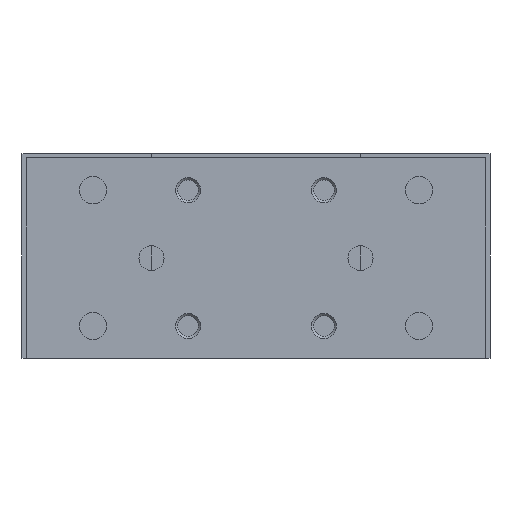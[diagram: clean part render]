
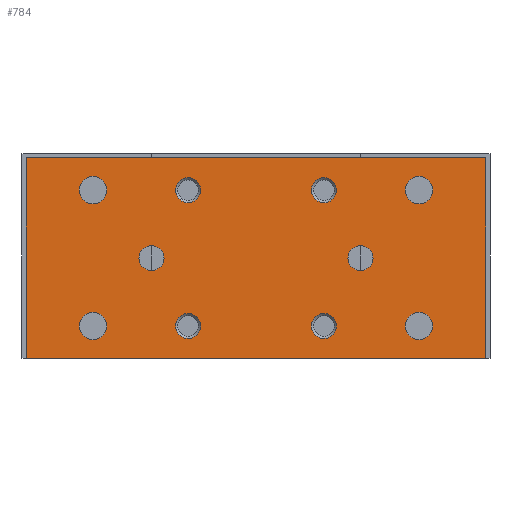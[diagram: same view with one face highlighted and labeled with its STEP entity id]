
A CAD part, left-side view. The second image highlights one B-rep face of the part: STEP entity #784.
In plain terms, the highlighted planar face has unit normal (-1, 0, 0).
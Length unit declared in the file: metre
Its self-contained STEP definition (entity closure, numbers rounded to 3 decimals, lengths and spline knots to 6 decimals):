
#784 = ADVANCED_FACE( '', ( #1798, #1799, #1800, #1801, #1802, #1803, #1804, #1805, #1806, #1807, #1808 ), #1809, .F. );
#1798 = FACE_BOUND( '', #2866, .T. );
#1799 = FACE_BOUND( '', #2867, .T. );
#1800 = FACE_BOUND( '', #2868, .T. );
#1801 = FACE_BOUND( '', #2869, .T. );
#1802 = FACE_BOUND( '', #2870, .T. );
#1803 = FACE_BOUND( '', #2871, .T. );
#1804 = FACE_BOUND( '', #2872, .T. );
#1805 = FACE_BOUND( '', #2873, .T. );
#1806 = FACE_BOUND( '', #2874, .T. );
#1807 = FACE_BOUND( '', #2875, .T. );
#1808 = FACE_OUTER_BOUND( '', #2876, .T. );
#1809 = PLANE( '', #2877 );
#2866 = EDGE_LOOP( '', ( #4649 ) );
#2867 = EDGE_LOOP( '', ( #4650 ) );
#2868 = EDGE_LOOP( '', ( #4651 ) );
#2869 = EDGE_LOOP( '', ( #4652 ) );
#2870 = EDGE_LOOP( '', ( #4653 ) );
#2871 = EDGE_LOOP( '', ( #4654 ) );
#2872 = EDGE_LOOP( '', ( #4655 ) );
#2873 = EDGE_LOOP( '', ( #4656 ) );
#2874 = EDGE_LOOP( '', ( #4657 ) );
#2875 = EDGE_LOOP( '', ( #4658 ) );
#2876 = EDGE_LOOP( '', ( #4659, #4660, #4661, #4662 ) );
#2877 = AXIS2_PLACEMENT_3D( '', #4663, #4664, #4665 );
#4649 = ORIENTED_EDGE( '', *, *, #4991, .T. );
#4650 = ORIENTED_EDGE( '', *, *, #5464, .T. );
#4651 = ORIENTED_EDGE( '', *, *, #5454, .T. );
#4652 = ORIENTED_EDGE( '', *, *, #5195, .T. );
#4653 = ORIENTED_EDGE( '', *, *, #5349, .F. );
#4654 = ORIENTED_EDGE( '', *, *, #5180, .T. );
#4655 = ORIENTED_EDGE( '', *, *, #5366, .T. );
#4656 = ORIENTED_EDGE( '', *, *, #5331, .F. );
#4657 = ORIENTED_EDGE( '', *, *, #5254, .F. );
#4658 = ORIENTED_EDGE( '', *, *, #5115, .T. );
#4659 = ORIENTED_EDGE( '', *, *, #5283, .T. );
#4660 = ORIENTED_EDGE( '', *, *, #5108, .T. );
#4661 = ORIENTED_EDGE( '', *, *, #5160, .T. );
#4662 = ORIENTED_EDGE( '', *, *, #4988, .T. );
#4663 = CARTESIAN_POINT( '', ( -0.07925, -0.055, -0.049 ) );
#4664 = DIRECTION( '', ( 1., 0., 0. ) );
#4665 = DIRECTION( '', ( 0., 1., 0. ) );
#4988 = EDGE_CURVE( '', #5757, #5755, #5758, .T. );
#4991 = EDGE_CURVE( '', #5761, #5761, #5762, .T. );
#5108 = EDGE_CURVE( '', #5942, #5940, #5943, .T. );
#5115 = EDGE_CURVE( '', #5952, #5952, #5953, .T. );
#5160 = EDGE_CURVE( '', #5940, #5757, #6021, .T. );
#5180 = EDGE_CURVE( '', #6048, #6048, #6049, .T. );
#5195 = EDGE_CURVE( '', #6073, #6073, #6074, .T. );
#5254 = EDGE_CURVE( '', #6162, #6162, #6163, .T. );
#5283 = EDGE_CURVE( '', #5755, #5942, #6201, .T. );
#5331 = EDGE_CURVE( '', #6265, #6265, #6266, .T. );
#5349 = EDGE_CURVE( '', #6291, #6291, #6292, .T. );
#5366 = EDGE_CURVE( '', #6313, #6313, #6314, .T. );
#5454 = EDGE_CURVE( '', #6426, #6426, #6427, .T. );
#5464 = EDGE_CURVE( '', #6438, #6438, #6439, .T. );
#5755 = VERTEX_POINT( '', #6789 );
#5757 = VERTEX_POINT( '', #6792 );
#5758 = LINE( '', #6793, #6794 );
#5761 = VERTEX_POINT( '', #6798 );
#5762 = CIRCLE( '', #6799, 0.0033 );
#5940 = VERTEX_POINT( '', #7041 );
#5942 = VERTEX_POINT( '', #7044 );
#5943 = LINE( '', #7045, #7046 );
#5952 = VERTEX_POINT( '', #7056 );
#5953 = CIRCLE( '', #7057, 0.003 );
#6021 = LINE( '', #7138, #7139 );
#6048 = VERTEX_POINT( '', #7166 );
#6049 = CIRCLE( '', #7167, 0.003 );
#6073 = VERTEX_POINT( '', #7194 );
#6074 = CIRCLE( '', #7195, 0.0033 );
#6162 = VERTEX_POINT( '', #7334 );
#6163 = CIRCLE( '', #7335, 0.003 );
#6201 = LINE( '', #7376, #7377 );
#6265 = VERTEX_POINT( '', #7490 );
#6266 = CIRCLE( '', #7491, 0.003 );
#6291 = VERTEX_POINT( '', #7516 );
#6292 = CIRCLE( '', #7517, 0.003 );
#6313 = VERTEX_POINT( '', #7539 );
#6314 = CIRCLE( '', #7540, 0.003 );
#6426 = VERTEX_POINT( '', #7764 );
#6427 = CIRCLE( '', #7765, 0.0033 );
#6438 = VERTEX_POINT( '', #7776 );
#6439 = CIRCLE( '', #7777, 0.0033 );
#6789 = CARTESIAN_POINT( '', ( -0.07925, -0.055, -0.049 ) );
#6792 = CARTESIAN_POINT( '', ( -0.07925, 0.055, -0.049 ) );
#6793 = CARTESIAN_POINT( '', ( -0.07925, 0.055, -0.049 ) );
#6794 = VECTOR( '', #8043, 1. );
#6798 = CARTESIAN_POINT( '', ( -0.07925, -0.0357, -0.04125 ) );
#6799 = AXIS2_PLACEMENT_3D( '', #8045, #8046, #8047 );
#7041 = CARTESIAN_POINT( '', ( -0.07925, 0.055, -0.001 ) );
#7044 = CARTESIAN_POINT( '', ( -0.07925, -0.055, -0.001 ) );
#7045 = CARTESIAN_POINT( '', ( -0.07925, -0.055, -0.001 ) );
#7046 = VECTOR( '', #8209, 1. );
#7056 = CARTESIAN_POINT( '', ( -0.07925, 0.01325, -0.00875 ) );
#7057 = AXIS2_PLACEMENT_3D( '', #8217, #8218, #8219 );
#7138 = CARTESIAN_POINT( '', ( -0.07925, 0.055, -0.001 ) );
#7139 = VECTOR( '', #8278, 1. );
#7166 = CARTESIAN_POINT( '', ( -0.07925, 0.025, -0.022 ) );
#7167 = AXIS2_PLACEMENT_3D( '', #8306, #8307, #8308 );
#7194 = CARTESIAN_POINT( '', ( -0.07925, 0.0423, -0.00875 ) );
#7195 = AXIS2_PLACEMENT_3D( '', #8333, #8334, #8335 );
#7334 = CARTESIAN_POINT( '', ( -0.07925, -0.01325, -0.00875 ) );
#7335 = AXIS2_PLACEMENT_3D( '', #8405, #8406, #8407 );
#7376 = CARTESIAN_POINT( '', ( -0.07925, -0.055, -0.049 ) );
#7377 = VECTOR( '', #8441, 1. );
#7490 = CARTESIAN_POINT( '', ( -0.07925, 0.01325, -0.04125 ) );
#7491 = AXIS2_PLACEMENT_3D( '', #8485, #8486, #8487 );
#7516 = CARTESIAN_POINT( '', ( -0.07925, -0.025, -0.022 ) );
#7517 = AXIS2_PLACEMENT_3D( '', #8509, #8510, #8511 );
#7539 = CARTESIAN_POINT( '', ( -0.07925, -0.01325, -0.04125 ) );
#7540 = AXIS2_PLACEMENT_3D( '', #8528, #8529, #8530 );
#7764 = CARTESIAN_POINT( '', ( -0.07925, -0.0357, -0.00875 ) );
#7765 = AXIS2_PLACEMENT_3D( '', #8616, #8617, #8618 );
#7776 = CARTESIAN_POINT( '', ( -0.07925, 0.0423, -0.04125 ) );
#7777 = AXIS2_PLACEMENT_3D( '', #8622, #8623, #8624 );
#8043 = DIRECTION( '', ( 0., -1., 0. ) );
#8045 = CARTESIAN_POINT( '', ( -0.07925, -0.039, -0.04125 ) );
#8046 = DIRECTION( '', ( 1., 0., 0. ) );
#8047 = DIRECTION( '', ( 0., 1., 0. ) );
#8209 = DIRECTION( '', ( 0., 1., 0. ) );
#8217 = CARTESIAN_POINT( '', ( -0.07925, 0.01625, -0.00875 ) );
#8218 = DIRECTION( '', ( 1., 0., 0. ) );
#8219 = DIRECTION( '', ( 0., -1., 0. ) );
#8278 = DIRECTION( '', ( 0., 0., -1. ) );
#8306 = CARTESIAN_POINT( '', ( -0.07925, 0.025, -0.025 ) );
#8307 = DIRECTION( '', ( 1., 0., 0. ) );
#8308 = DIRECTION( '', ( 0., 0., 1. ) );
#8333 = CARTESIAN_POINT( '', ( -0.07925, 0.039, -0.00875 ) );
#8334 = DIRECTION( '', ( 1., 0., 0. ) );
#8335 = DIRECTION( '', ( 0., 1., 0. ) );
#8405 = CARTESIAN_POINT( '', ( -0.07925, -0.01625, -0.00875 ) );
#8406 = DIRECTION( '', ( -1., 0., 0. ) );
#8407 = DIRECTION( '', ( 0., 1., 0. ) );
#8441 = DIRECTION( '', ( 0., 0., 1. ) );
#8485 = CARTESIAN_POINT( '', ( -0.07925, 0.01625, -0.04125 ) );
#8486 = DIRECTION( '', ( -1., 0., 0. ) );
#8487 = DIRECTION( '', ( 0., -1., 0. ) );
#8509 = CARTESIAN_POINT( '', ( -0.07925, -0.025, -0.025 ) );
#8510 = DIRECTION( '', ( -1., 0., 0. ) );
#8511 = DIRECTION( '', ( 0., 0., 1. ) );
#8528 = CARTESIAN_POINT( '', ( -0.07925, -0.01625, -0.04125 ) );
#8529 = DIRECTION( '', ( 1., 0., 0. ) );
#8530 = DIRECTION( '', ( 0., 1., 0. ) );
#8616 = CARTESIAN_POINT( '', ( -0.07925, -0.039, -0.00875 ) );
#8617 = DIRECTION( '', ( 1., 0., 0. ) );
#8618 = DIRECTION( '', ( 0., 1., 0. ) );
#8622 = CARTESIAN_POINT( '', ( -0.07925, 0.039, -0.04125 ) );
#8623 = DIRECTION( '', ( 1., 0., 0. ) );
#8624 = DIRECTION( '', ( 0., 1., 0. ) );
